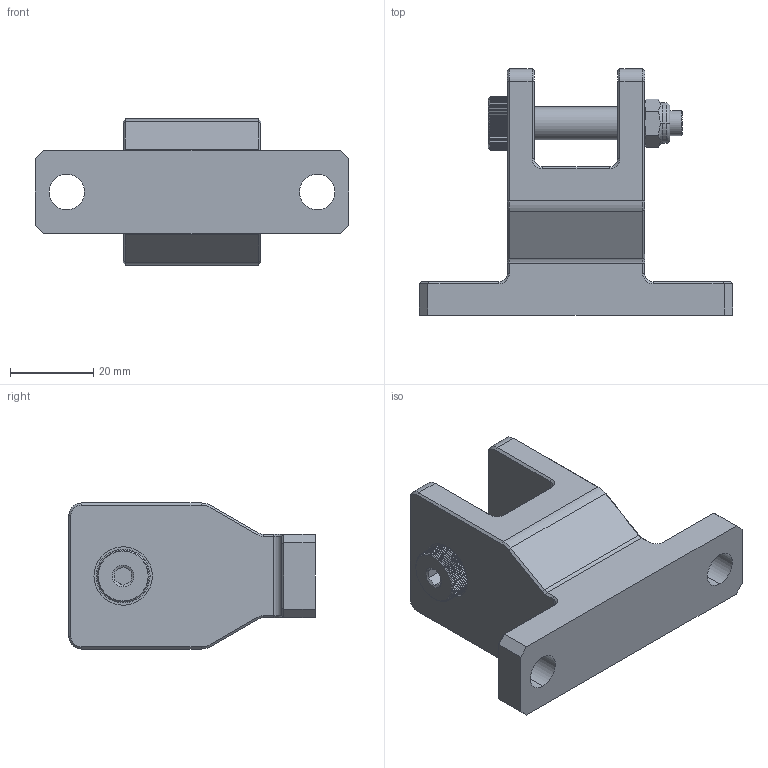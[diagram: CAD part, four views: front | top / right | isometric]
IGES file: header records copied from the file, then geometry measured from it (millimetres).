
Start section:  PTC IGES file: 6158122110.igs
Global section: file name: 6158122110.igs; native system: Creo Parametric by PTC Inc.; preprocessor: 2015380; author: greextsd; organization: Unknown; date: 20160125.132724; units: millimetre
Bounding box: 75 x 59 x 35 mm (x, y, z)
Volume: 49719.2 mm3; surface area: 13981 mm2
Topology: 1 solids, 1 shells, 353 faces, 954 edges, 612 vertices
Faces by surface type: bspline 275, revolution 78
